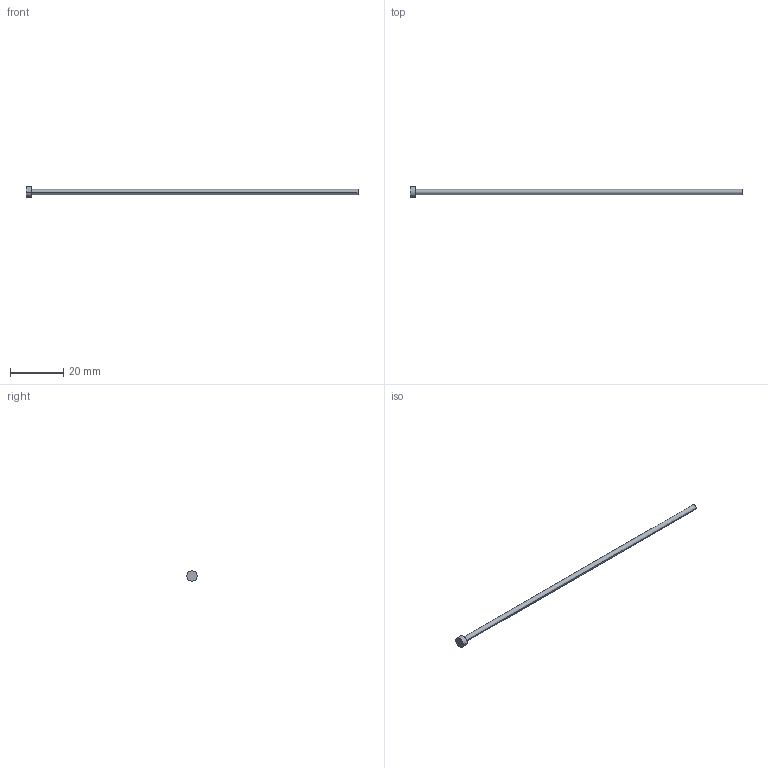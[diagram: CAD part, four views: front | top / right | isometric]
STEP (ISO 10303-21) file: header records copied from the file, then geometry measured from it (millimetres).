
FILE_DESCRIPTION (( 'STEP AP214' ), '1' );
FILE_NAME ('A-2x125.STEP', '2020-05-28T17:23:54', ( 'August' ), ( '' ), 'SwSTEP 2.0', 'SolidWorks 2018', '' );
FILE_SCHEMA (( 'AUTOMOTIVE_DESIGN' ));
Length unit declared in the file: millimetre
Products named in the file (1): A-2x125
Bounding box: 125 x 4 x 4 mm (x, y, z)
Volume: 411.6 mm3; surface area: 822.6 mm2
Topology: 1 solids, 1 shells, 9 faces, 16 edges, 10 vertices
Faces by surface type: cylinder 4, plane 3, torus 2
Entity records: 260 total; most frequent: DIRECTION 48, CARTESIAN_POINT 36, ORIENTED_EDGE 32, AXIS2_PLACEMENT_3D 22, EDGE_CURVE 16, CIRCLE 12, EDGE_LOOP 10, VERTEX_POINT 10
